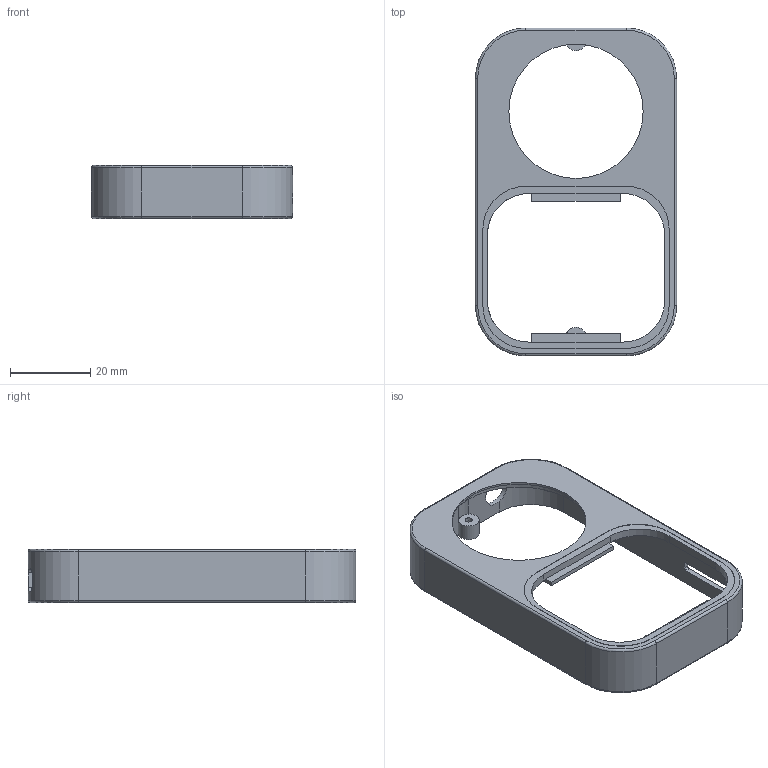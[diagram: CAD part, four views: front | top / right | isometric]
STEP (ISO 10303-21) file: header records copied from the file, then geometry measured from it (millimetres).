
FILE_DESCRIPTION(('FreeCAD Model'),'2;1');
FILE_NAME('Open CASCADE Shape Model','2026-09-23T14:25:22',('FreeCAD'),( 'FreeCAD'),'Open CASCADE STEP processor 7.8','FreeCAD','Unknown');
FILE_SCHEMA(('AUTOMOTIVE_DESIGN { 1 0 10303 214 1 1 1 1 }'));
Length unit declared in the file: millimetre
Products named in the file (1): Open CASCADE STEP translator 7.8 1
Bounding box: 50 x 81.5 x 13.2 mm (x, y, z)
Volume: 6230.4 mm3; surface area: 9753.9 mm2
Topology: 1 solids, 1 shells, 156 faces, 443 edges, 292 vertices
Faces by surface type: plane 88, cylinder 52, torus 8, cone 8
Full cylindrical faces by diameter (mm): 1.3 x3, 1.8 x2, 3 x2, 5.2 x1, 7.2 x1, 33.4 x1, 35.4 x1
Entity records: 5284 total; most frequent: CARTESIAN_POINT 1074, DIRECTION 894, ORIENTED_EDGE 886, EDGE_CURVE 443, AXIS2_PLACEMENT_3D 310, VERTEX_POINT 292, LINE 274, VECTOR 274
